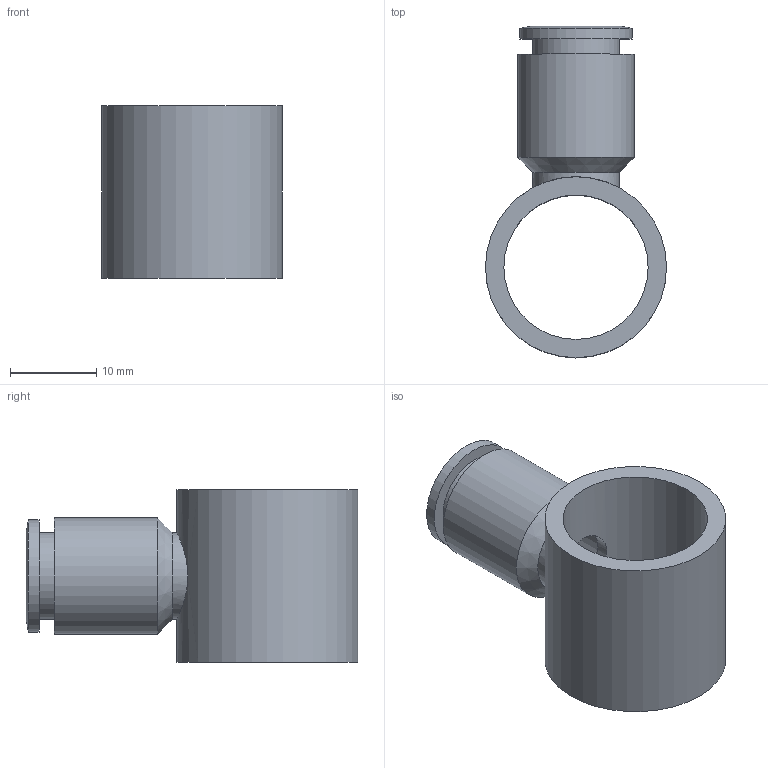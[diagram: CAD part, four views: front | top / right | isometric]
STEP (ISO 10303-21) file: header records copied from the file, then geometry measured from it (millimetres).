
FILE_DESCRIPTION((''),'2;1');
FILE_NAME('C:\Documents and Settings\rivolro1\Documenti\copia di Raccordi\PLASTICA\T13XXXX\T130838.stp','2007-10-30T17:37:29',('Rivolro1'),(''),'Autodesk Inventor 2008','Autodesk Inventor 2008','');
FILE_SCHEMA(('AUTOMOTIVE_DESIGN { 1 0 10303 214 1 1 1 1 }'));
Length unit declared in the file: millimetre
Products named in the file (1): T130838
Bounding box: 21 x 38.5 x 20 mm (x, y, z)
Volume: 3803.7 mm3; surface area: 3978.7 mm2
Topology: 1 solids, 1 shells, 16 faces, 27 edges, 17 vertices
Faces by surface type: cylinder 6, plane 5, bspline 3, cone 2
Full cylindrical faces by diameter (mm): 10 x1, 10.1 x1, 13 x1, 13.5 x1, 16.75 x1, 21 x1
Entity records: 552 total; most frequent: CARTESIAN_POINT 235, DIRECTION 58, ORIENTED_EDGE 34, EDGE_LOOP 34, AXIS2_PLACEMENT_3D 29, FACE_BOUND 18, VERTEX_POINT 17, EDGE_CURVE 17
